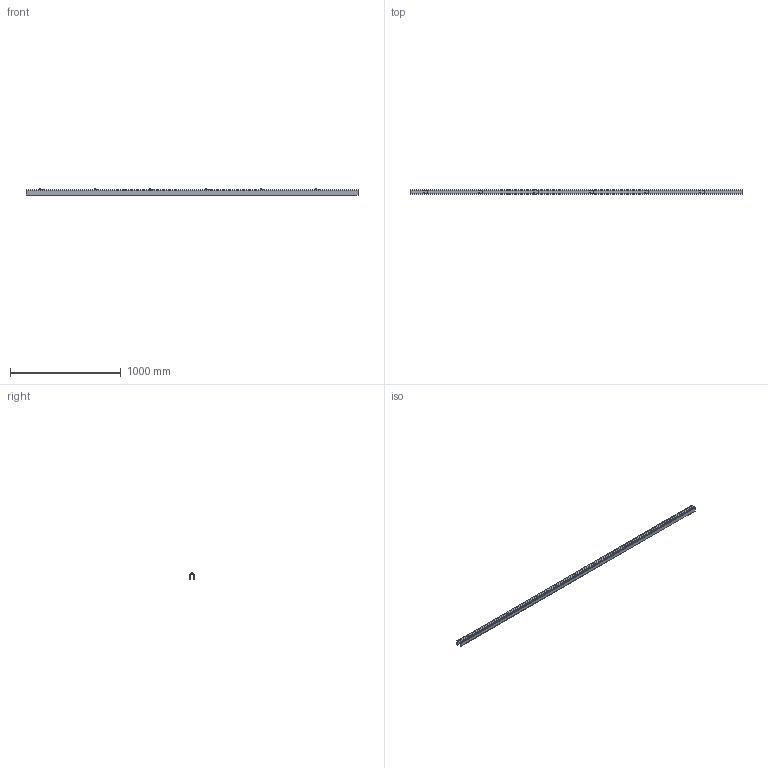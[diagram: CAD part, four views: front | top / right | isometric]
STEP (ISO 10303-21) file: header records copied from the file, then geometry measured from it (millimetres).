
FILE_DESCRIPTION(('STEP AP242'),'1');
FILE_NAME('OPO_65.083.23.stp','2026-03-17T13:41:40',(' '),(' '),'Spatial InterOp 3D',' ',' ');
FILE_SCHEMA(('AP242_MANAGED_MODEL_BASED_3D_ENGINEERING_MIM_LF {1 0 10303 442 1 1 4}'));
Length unit declared in the file: millimetre
Products named in the file (1): 1
Bounding box: 3000 x 42 x 57.5 mm (x, y, z)
Volume: 1473274.7 mm3; surface area: 1054547.5 mm2
Topology: 5 solids, 5 shells, 190 faces, 508 edges, 334 vertices
Faces by surface type: plane 170, cylinder 20
Entity records: 7372 total; most frequent: CARTESIAN_POINT 1037, ORIENTED_EDGE 1016, DIRECTION 938, EDGE_CURVE 508, LINE 468, VECTOR 468, VERTEX_POINT 334, AXIS2_PLACEMENT_3D 235
